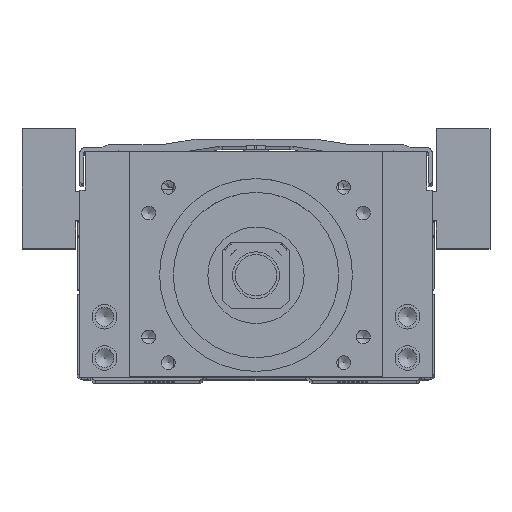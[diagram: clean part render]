
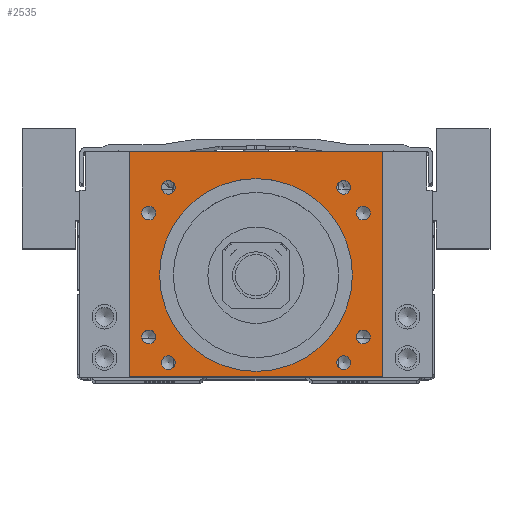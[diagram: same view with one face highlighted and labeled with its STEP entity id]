
A CAD part, top view. The second image highlights one B-rep face of the part: STEP entity #2535.
In plain terms, the highlighted planar face has unit normal (0, 0, 1).
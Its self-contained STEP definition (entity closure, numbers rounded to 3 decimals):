
#2535=ADVANCED_FACE('',(#6887,#6888,#6889,#6890,#6891,#6892,#6893,#6894,
#6895,#6896),#3409,.T.);
#3409=PLANE('',#18409);
#3862=LINE('',#24220,#5261);
#4316=LINE('',#25900,#5715);
#4321=LINE('',#25908,#5720);
#4326=LINE('',#25917,#5725);
#5261=VECTOR('',#19534,1.);
#5715=VECTOR('',#21036,1.);
#5720=VECTOR('',#21047,1.);
#5725=VECTOR('',#21054,1.);
#6887=FACE_BOUND('',#7909,.T.);
#6888=FACE_BOUND('',#7910,.T.);
#6889=FACE_BOUND('',#7911,.T.);
#6890=FACE_BOUND('',#7912,.T.);
#6891=FACE_BOUND('',#7913,.T.);
#6892=FACE_BOUND('',#7914,.T.);
#6893=FACE_BOUND('',#7915,.T.);
#6894=FACE_BOUND('',#7916,.T.);
#6895=FACE_BOUND('',#7917,.T.);
#6896=FACE_BOUND('',#7918,.T.);
#7909=EDGE_LOOP('',(#10389,#10390,#10391,#10392));
#7910=EDGE_LOOP('',(#10393));
#7911=EDGE_LOOP('',(#10394));
#7912=EDGE_LOOP('',(#10395));
#7913=EDGE_LOOP('',(#10396));
#7914=EDGE_LOOP('',(#10397));
#7915=EDGE_LOOP('',(#10398));
#7916=EDGE_LOOP('',(#10399));
#7917=EDGE_LOOP('',(#10400));
#7918=EDGE_LOOP('',(#10401));
#10389=ORIENTED_EDGE('',*,*,#15781,.T.);
#10390=ORIENTED_EDGE('',*,*,#15054,.T.);
#10391=ORIENTED_EDGE('',*,*,#15776,.T.);
#10392=ORIENTED_EDGE('',*,*,#15786,.T.);
#10393=ORIENTED_EDGE('',*,*,#15794,.F.);
#10394=ORIENTED_EDGE('',*,*,#15795,.T.);
#10395=ORIENTED_EDGE('',*,*,#15796,.T.);
#10396=ORIENTED_EDGE('',*,*,#15797,.F.);
#10397=ORIENTED_EDGE('',*,*,#15793,.F.);
#10398=ORIENTED_EDGE('',*,*,#15798,.T.);
#10399=ORIENTED_EDGE('',*,*,#15799,.T.);
#10400=ORIENTED_EDGE('',*,*,#15800,.T.);
#10401=ORIENTED_EDGE('',*,*,#15801,.T.);
#13422=VERTEX_POINT('',#24219);
#13423=VERTEX_POINT('',#24221);
#13937=VERTEX_POINT('',#25898);
#13939=VERTEX_POINT('',#25909);
#13945=VERTEX_POINT('',#25933);
#13946=VERTEX_POINT('',#25936);
#13947=VERTEX_POINT('',#25938);
#13948=VERTEX_POINT('',#25940);
#13949=VERTEX_POINT('',#25942);
#13950=VERTEX_POINT('',#25944);
#13951=VERTEX_POINT('',#25946);
#13952=VERTEX_POINT('',#25948);
#13953=VERTEX_POINT('',#25950);
#15054=EDGE_CURVE('',#13423,#13422,#3862,.T.);
#15776=EDGE_CURVE('',#13422,#13937,#4316,.T.);
#15781=EDGE_CURVE('',#13939,#13423,#4321,.T.);
#15786=EDGE_CURVE('',#13937,#13939,#4326,.T.);
#15793=EDGE_CURVE('',#13945,#13945,#17464,.T.);
#15794=EDGE_CURVE('',#13946,#13946,#17465,.T.);
#15795=EDGE_CURVE('',#13947,#13947,#17466,.T.);
#15796=EDGE_CURVE('',#13948,#13948,#17467,.T.);
#15797=EDGE_CURVE('',#13949,#13949,#17468,.T.);
#15798=EDGE_CURVE('',#13950,#13950,#17469,.T.);
#15799=EDGE_CURVE('',#13951,#13951,#17470,.T.);
#15800=EDGE_CURVE('',#13952,#13952,#17471,.T.);
#15801=EDGE_CURVE('',#13953,#13953,#17472,.T.);
#17464=CIRCLE('',#18399,35.015);
#17465=CIRCLE('',#18401,2.5);
#17466=CIRCLE('',#18402,2.5);
#17467=CIRCLE('',#18403,2.5);
#17468=CIRCLE('',#18404,2.5);
#17469=CIRCLE('',#18405,2.5);
#17470=CIRCLE('',#18406,2.5);
#17471=CIRCLE('',#18407,2.5);
#17472=CIRCLE('',#18408,2.5);
#18399=AXIS2_PLACEMENT_3D('',#25932,#21073,#21074);
#18401=AXIS2_PLACEMENT_3D('',#25935,#21077,#21078);
#18402=AXIS2_PLACEMENT_3D('',#25937,#21079,#21080);
#18403=AXIS2_PLACEMENT_3D('',#25939,#21081,#21082);
#18404=AXIS2_PLACEMENT_3D('',#25941,#21083,#21084);
#18405=AXIS2_PLACEMENT_3D('',#25943,#21085,#21086);
#18406=AXIS2_PLACEMENT_3D('',#25945,#21087,#21088);
#18407=AXIS2_PLACEMENT_3D('',#25947,#21089,#21090);
#18408=AXIS2_PLACEMENT_3D('',#25949,#21091,#21092);
#18409=AXIS2_PLACEMENT_3D('',#25951,#21093,#21094);
#19534=DIRECTION('',(-1.,0.,0.));
#21036=DIRECTION('',(0.,-1.,0.));
#21047=DIRECTION('',(0.,1.,0.));
#21054=DIRECTION('',(1.,0.,0.));
#21073=DIRECTION('',(0.,0.,1.));
#21074=DIRECTION('',(1.,0.,0.));
#21077=DIRECTION('',(0.,0.,1.));
#21078=DIRECTION('',(-1.,0.,0.));
#21079=DIRECTION('',(0.,0.,-1.));
#21080=DIRECTION('',(1.,0.,0.));
#21081=DIRECTION('',(0.,0.,-1.));
#21082=DIRECTION('',(1.,0.,0.));
#21083=DIRECTION('',(0.,0.,1.));
#21084=DIRECTION('',(-1.,0.,0.));
#21085=DIRECTION('',(0.,0.,-1.));
#21086=DIRECTION('',(1.,0.,0.));
#21087=DIRECTION('',(0.,0.,-1.));
#21088=DIRECTION('',(1.,0.,0.));
#21089=DIRECTION('',(0.,0.,-1.));
#21090=DIRECTION('',(1.,0.,0.));
#21091=DIRECTION('',(0.,0.,-1.));
#21092=DIRECTION('',(1.,0.,0.));
#21093=DIRECTION('',(0.,0.,1.));
#21094=DIRECTION('',(-1.,0.,0.));
#24219=CARTESIAN_POINT('',(-46.,83.,50.));
#24220=CARTESIAN_POINT('',(0.,83.,50.));
#24221=CARTESIAN_POINT('',(46.,83.,50.));
#25898=CARTESIAN_POINT('',(-46.,1.,50.));
#25900=CARTESIAN_POINT('',(-46.,38.,50.));
#25908=CARTESIAN_POINT('',(46.,38.,50.));
#25909=CARTESIAN_POINT('',(46.,1.,50.));
#25917=CARTESIAN_POINT('',(0.,1.,50.));
#25932=CARTESIAN_POINT('',(0.,38.,50.));
#25933=CARTESIAN_POINT('',(35.015,38.,50.));
#25935=CARTESIAN_POINT('',(-38.971,15.5,50.));
#25936=CARTESIAN_POINT('',(-41.471,15.5,50.));
#25937=CARTESIAN_POINT('',(38.971,60.5,50.));
#25938=CARTESIAN_POINT('',(41.471,60.5,50.));
#25939=CARTESIAN_POINT('',(38.971,15.5,50.));
#25940=CARTESIAN_POINT('',(41.471,15.5,50.));
#25941=CARTESIAN_POINT('',(-38.971,60.5,50.));
#25942=CARTESIAN_POINT('',(-41.471,60.5,50.));
#25943=CARTESIAN_POINT('',(-31.82,69.82,50.));
#25944=CARTESIAN_POINT('',(-29.32,69.82,50.));
#25945=CARTESIAN_POINT('',(-31.82,6.18,50.));
#25946=CARTESIAN_POINT('',(-29.32,6.18,50.));
#25947=CARTESIAN_POINT('',(31.82,6.18,50.));
#25948=CARTESIAN_POINT('',(34.32,6.18,50.));
#25949=CARTESIAN_POINT('',(31.82,69.82,50.));
#25950=CARTESIAN_POINT('',(34.32,69.82,50.));
#25951=CARTESIAN_POINT('',(0.,38.,50.));
